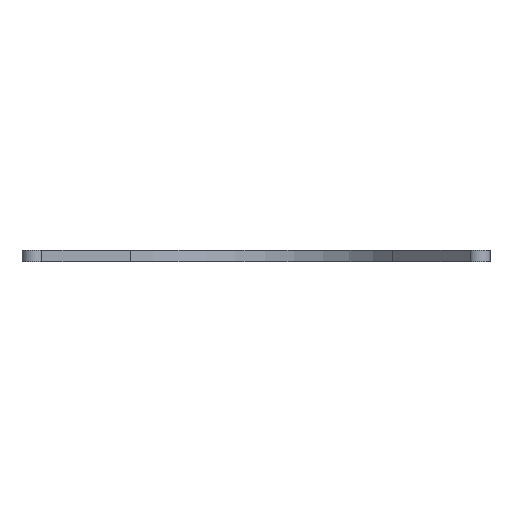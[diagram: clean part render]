
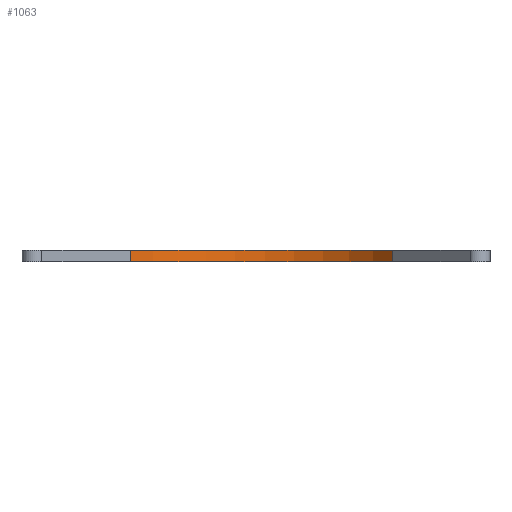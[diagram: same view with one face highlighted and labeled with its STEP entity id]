
A CAD part, front view. The second image highlights one B-rep face of the part: STEP entity #1063.
In plain terms, the highlighted cylindrical face has radius 30 mm (diameter 60 mm), a partial arc.
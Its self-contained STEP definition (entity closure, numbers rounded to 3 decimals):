
#50=CARTESIAN_POINT('',(0.09,-47.08,0.));
#51=DIRECTION('',(0.,0.,-1.));
#52=DIRECTION('',(-0.735,0.678,0.));
#53=AXIS2_PLACEMENT_3D('',#50,#51,#52);
#179=DIRECTION('',(0.,0.,1.));
#180=VECTOR('',#179,2.);
#181=CARTESIAN_POINT('',(23.945,-28.889,0.));
#182=LINE('',#181,#180);
#183=DIRECTION('',(0.,0.,1.));
#184=VECTOR('',#183,2.);
#185=CARTESIAN_POINT('',(-21.954,-26.731,0.));
#186=LINE('',#185,#184);
#249=CARTESIAN_POINT('',(0.09,-47.08,2.));
#250=DIRECTION('',(0.,0.,-1.));
#251=DIRECTION('',(-0.735,0.678,0.));
#252=AXIS2_PLACEMENT_3D('',#249,#250,#251);
#707=CARTESIAN_POINT('',(-21.954,-26.731,0.));
#708=VERTEX_POINT('',#707);
#709=CARTESIAN_POINT('',(23.945,-28.889,0.));
#711=VERTEX_POINT('',#709);
#739=CARTESIAN_POINT('',(-21.954,-26.731,2.));
#740=VERTEX_POINT('',#739);
#741=CARTESIAN_POINT('',(23.945,-28.889,2.));
#743=VERTEX_POINT('',#741);
#1050=CARTESIAN_POINT('',(0.09,-47.08,0.));
#1051=DIRECTION('',(0.,0.,1.));
#1052=DIRECTION('',(1.,0.,0.));
#1053=AXIS2_PLACEMENT_3D('',#1050,#1051,#1052);
#1054=CYLINDRICAL_SURFACE('',#1053,30.);
#1055=ORIENTED_EDGE('',*,*,#912,.F.);
#1057=ORIENTED_EDGE('',*,*,#1056,.T.);
#1059=ORIENTED_EDGE('',*,*,#1058,.T.);
#1060=ORIENTED_EDGE('',*,*,#1042,.F.);
#1061=EDGE_LOOP('',(#1055,#1057,#1059,#1060));
#1062=FACE_OUTER_BOUND('',#1061,.F.);
#1063=ADVANCED_FACE('',(#1062),#1054,.F.);
#54=CIRCLE('',#53,30.);
#253=CIRCLE('',#252,30.);
#912=EDGE_CURVE('',#708,#711,#54,.T.);
#1042=EDGE_CURVE('',#711,#743,#182,.T.);
#1056=EDGE_CURVE('',#708,#740,#186,.T.);
#1058=EDGE_CURVE('',#740,#743,#253,.T.);
